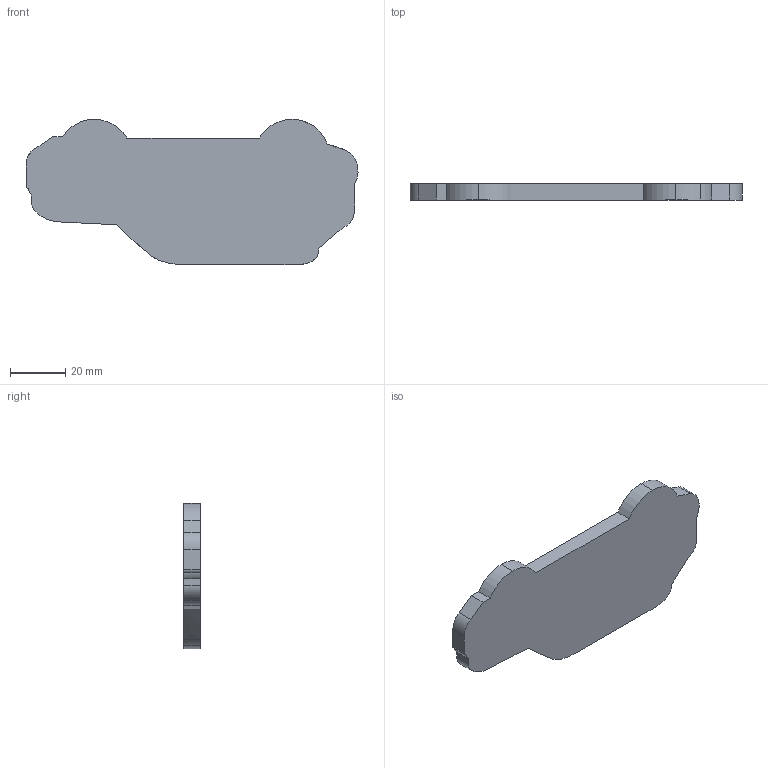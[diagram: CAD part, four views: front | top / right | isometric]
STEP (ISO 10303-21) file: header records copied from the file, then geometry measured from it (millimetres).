
FILE_DESCRIPTION (( 'STEP AP203' ), '1' );
FILE_NAME ('FASTBACK COOKIE CUTTER.STEP', '2025-11-17T17:00:55', ( '' ), ( '' ), 'SwSTEP 2.0', 'SolidWorks 2024', '' );
FILE_SCHEMA (( 'CONFIG_CONTROL_DESIGN' ));
Length unit declared in the file: millimetre
Products named in the file (1): FASTBACK COOKIE CUTTER
Bounding box: 120.16 x 5.88 x 52.55 mm (x, y, z)
Volume: 10281.7 mm3; surface area: 18538.1 mm2
Topology: 1 solids, 1 shells, 385 faces, 1047 edges, 698 vertices
Faces by surface type: plane 203, bspline 175, cylinder 7
Entity records: 14653 total; most frequent: CARTESIAN_POINT 6083, ORIENTED_EDGE 2094, DIRECTION 1106, EDGE_CURVE 1047, VERTEX_POINT 698, VECTOR 680, LINE 680, EDGE_LOOP 423
